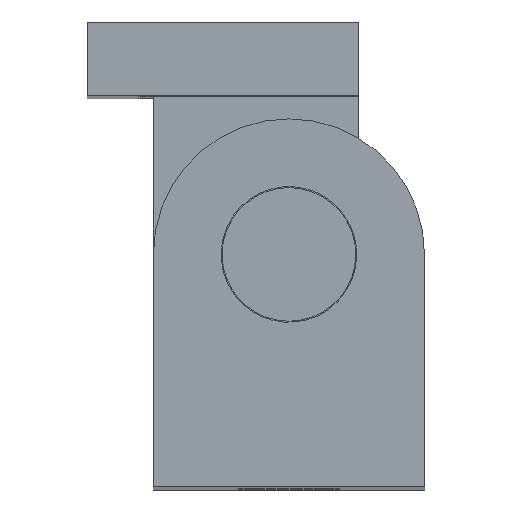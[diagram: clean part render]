
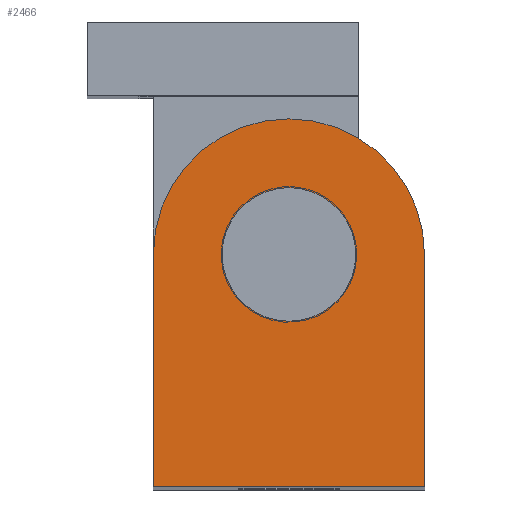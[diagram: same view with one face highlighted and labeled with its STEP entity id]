
A CAD part, top view. The second image highlights one B-rep face of the part: STEP entity #2466.
In plain terms, the highlighted planar face has unit normal (0, 0, 1).
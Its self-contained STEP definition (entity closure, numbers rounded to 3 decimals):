
#40 = DIRECTION ( 'NONE',  ( 0., -1., 0. ) ) ;
#55 = LINE ( 'NONE', #2610, #1770 ) ;
#93 = ORIENTED_EDGE ( 'NONE', *, *, #2433, .T. ) ;
#163 = DIRECTION ( 'NONE',  ( 1., 0., 0. ) ) ;
#183 = AXIS2_PLACEMENT_3D ( 'NONE', #520, #2125, #2354 ) ;
#196 = CARTESIAN_POINT ( 'NONE',  ( 3.45, 0., 92. ) ) ;
#229 = CIRCLE ( 'NONE', #1885, 3.45 ) ;
#279 = CIRCLE ( 'NONE', #2079, 3.45 ) ;
#294 = ORIENTED_EDGE ( 'NONE', *, *, #2239, .T. ) ;
#342 = VERTEX_POINT ( 'NONE', #790 ) ;
#388 = LINE ( 'NONE', #2493, #972 ) ;
#399 = DIRECTION ( 'NONE',  ( 0., 0., 1. ) ) ;
#407 = EDGE_LOOP ( 'NONE', ( #684, #294, #93, #2678 ) ) ;
#432 = ORIENTED_EDGE ( 'NONE', *, *, #2915, .F. ) ;
#504 = DIRECTION ( 'NONE',  ( 1., 0., 0. ) ) ;
#520 = CARTESIAN_POINT ( 'NONE',  ( 0., 0., 92. ) ) ;
#548 = CARTESIAN_POINT ( 'NONE',  ( 7., 0., 92. ) ) ;
#555 = CARTESIAN_POINT ( 'NONE',  ( 7., 0., 92. ) ) ;
#684 = ORIENTED_EDGE ( 'NONE', *, *, #1818, .T. ) ;
#779 = EDGE_CURVE ( 'NONE', #1141, #342, #229, .T. ) ;
#790 = CARTESIAN_POINT ( 'NONE',  ( -3.45, 0., 92. ) ) ;
#886 = CARTESIAN_POINT ( 'NONE',  ( 0., 0., 92. ) ) ;
#972 = VECTOR ( 'NONE', #40, 1000. ) ;
#1015 = EDGE_CURVE ( 'NONE', #2973, #2048, #2644, .T. ) ;
#1058 = CIRCLE ( 'NONE', #183, 7. ) ;
#1141 = VERTEX_POINT ( 'NONE', #196 ) ;
#1208 = DIRECTION ( 'NONE',  ( 1., 0., 0. ) ) ;
#1360 = CARTESIAN_POINT ( 'NONE',  ( 0., 0., 92. ) ) ;
#1395 = VECTOR ( 'NONE', #1475, 1000. ) ;
#1475 = DIRECTION ( 'NONE',  ( 0., 1., 0. ) ) ;
#1612 = EDGE_LOOP ( 'NONE', ( #432, #2062 ) ) ;
#1620 = FACE_BOUND ( 'NONE', #1612, .T. ) ;
#1770 = VECTOR ( 'NONE', #1208, 1000. ) ;
#1818 = EDGE_CURVE ( 'NONE', #2048, #2618, #1058, .T. ) ;
#1853 = DIRECTION ( 'NONE',  ( 0., 0., 1. ) ) ;
#1855 = CARTESIAN_POINT ( 'NONE',  ( -7., -12., 92. ) ) ;
#1885 = AXIS2_PLACEMENT_3D ( 'NONE', #886, #1853, #2787 ) ;
#2048 = VERTEX_POINT ( 'NONE', #548 ) ;
#2051 = CARTESIAN_POINT ( 'NONE',  ( -7., 0., 92. ) ) ;
#2062 = ORIENTED_EDGE ( 'NONE', *, *, #779, .F. ) ;
#2079 = AXIS2_PLACEMENT_3D ( 'NONE', #2718, #399, #163 ) ;
#2125 = DIRECTION ( 'NONE',  ( 0., 0., 1. ) ) ;
#2239 = EDGE_CURVE ( 'NONE', #2618, #2469, #388, .T. ) ;
#2354 = DIRECTION ( 'NONE',  ( 1., 0., 0. ) ) ;
#2433 = EDGE_CURVE ( 'NONE', #2469, #2973, #55, .T. ) ;
#2466 = ADVANCED_FACE ( 'NONE', ( #2560, #1620 ), #2597, .T. ) ;
#2469 = VERTEX_POINT ( 'NONE', #1855 ) ;
#2493 = CARTESIAN_POINT ( 'NONE',  ( -7., 0., 92. ) ) ;
#2560 = FACE_OUTER_BOUND ( 'NONE', #407, .T. ) ;
#2570 = AXIS2_PLACEMENT_3D ( 'NONE', #1360, #2993, #504 ) ;
#2576 = CARTESIAN_POINT ( 'NONE',  ( 7., -12., 92. ) ) ;
#2597 = PLANE ( 'NONE',  #2570 ) ;
#2610 = CARTESIAN_POINT ( 'NONE',  ( -7., -12., 92. ) ) ;
#2618 = VERTEX_POINT ( 'NONE', #2051 ) ;
#2644 = LINE ( 'NONE', #555, #1395 ) ;
#2678 = ORIENTED_EDGE ( 'NONE', *, *, #1015, .T. ) ;
#2718 = CARTESIAN_POINT ( 'NONE',  ( 0., 0., 92. ) ) ;
#2787 = DIRECTION ( 'NONE',  ( 1., 0., 0. ) ) ;
#2915 = EDGE_CURVE ( 'NONE', #342, #1141, #279, .T. ) ;
#2973 = VERTEX_POINT ( 'NONE', #2576 ) ;
#2993 = DIRECTION ( 'NONE',  ( 0., 0., 1. ) ) ;
